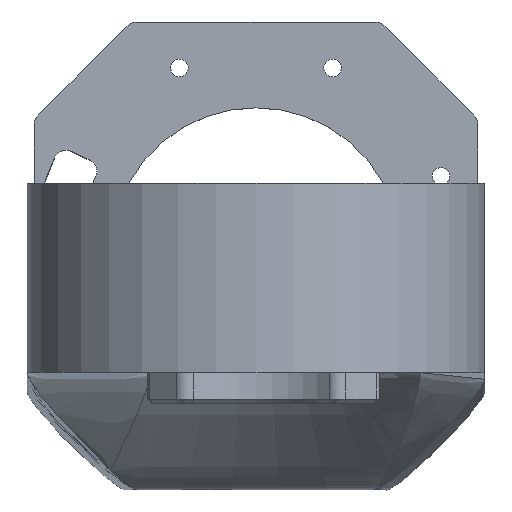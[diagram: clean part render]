
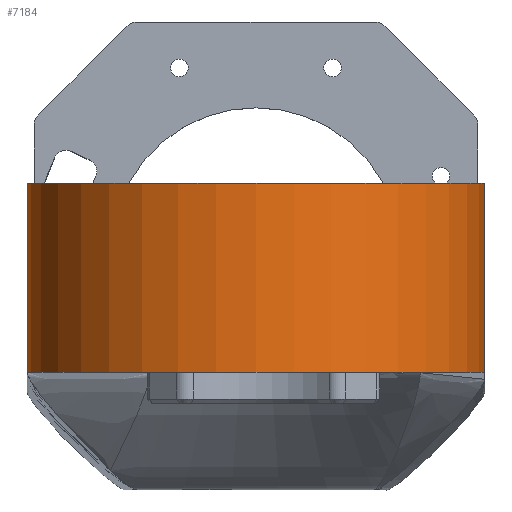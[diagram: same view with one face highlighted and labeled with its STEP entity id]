
A CAD part, top view. The second image highlights one B-rep face of the part: STEP entity #7184.
In plain terms, the highlighted cylindrical face has radius 56 mm (diameter 112 mm), a partial arc.
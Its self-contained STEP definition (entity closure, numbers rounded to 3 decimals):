
#385=CARTESIAN_POINT('',(-126.,-33.5,-94.));
#386=DIRECTION('',(0.,1.,0.));
#387=DIRECTION('',(0.,0.,1.));
#388=AXIS2_PLACEMENT_3D('',#385,#386,#387);
#403=CARTESIAN_POINT('',(-126.,-33.5,-94.));
#404=DIRECTION('',(0.,1.,0.));
#405=DIRECTION('',(-1.,0.,0.));
#406=AXIS2_PLACEMENT_3D('',#403,#404,#405);
#546=DIRECTION('',(0.,1.,0.));
#547=VECTOR('',#546,46.25);
#548=CARTESIAN_POINT('',(-182.,-33.5,-94.));
#549=LINE('',#548,#547);
#550=DIRECTION('',(0.,-1.,0.));
#551=VECTOR('',#550,46.25);
#552=CARTESIAN_POINT('',(-85.768,12.75,-132.954));
#553=LINE('',#552,#551);
#909=CARTESIAN_POINT('',(-126.,12.75,-94.));
#910=DIRECTION('',(0.,-1.,0.));
#911=DIRECTION('',(0.718,0.,-0.696));
#912=AXIS2_PLACEMENT_3D('',#909,#910,#911);
#914=CARTESIAN_POINT('',(-126.,12.75,-94.));
#915=DIRECTION('',(0.,-1.,0.));
#916=DIRECTION('',(0.,0.,1.));
#917=AXIS2_PLACEMENT_3D('',#914,#915,#916);
#5710=CARTESIAN_POINT('',(-85.768,12.75,-132.954));
#5711=VERTEX_POINT('',#5710);
#5712=CARTESIAN_POINT('',(-126.,12.75,-38.));
#5713=CARTESIAN_POINT('',(-182.,12.75,-94.));
#5714=VERTEX_POINT('',#5712);
#5715=VERTEX_POINT('',#5713);
#5849=CARTESIAN_POINT('',(-182.,-33.5,-94.));
#5851=VERTEX_POINT('',#5849);
#5852=CARTESIAN_POINT('',(-126.,-33.5,-38.));
#5853=CARTESIAN_POINT('',(-85.764,-33.5,-132.949));
#5854=VERTEX_POINT('',#5852);
#5855=VERTEX_POINT('',#5853);
#7167=CARTESIAN_POINT('',(-126.,1252.213,-94.));
#7168=DIRECTION('',(0.,-1.,0.));
#7169=DIRECTION('',(0.,0.,-1.));
#7170=AXIS2_PLACEMENT_3D('',#7167,#7168,#7169);
#7171=CYLINDRICAL_SURFACE('',#7170,56.);
#7173=ORIENTED_EDGE('',*,*,#7172,.T.);
#7175=ORIENTED_EDGE('',*,*,#7174,.F.);
#7177=ORIENTED_EDGE('',*,*,#7176,.F.);
#7179=ORIENTED_EDGE('',*,*,#7178,.T.);
#7180=ORIENTED_EDGE('',*,*,#7082,.F.);
#7181=ORIENTED_EDGE('',*,*,#7090,.F.);
#7182=EDGE_LOOP('',(#7173,#7175,#7177,#7179,#7180,#7181));
#7183=FACE_OUTER_BOUND('',#7182,.F.);
#7184=ADVANCED_FACE('',(#7183),#7171,.T.);
#389=CIRCLE('',#388,56.);
#407=CIRCLE('',#406,56.);
#913=CIRCLE('',#912,56.);
#918=CIRCLE('',#917,56.);
#7082=EDGE_CURVE('',#5854,#5855,#389,.T.);
#7090=EDGE_CURVE('',#5851,#5854,#407,.T.);
#7172=EDGE_CURVE('',#5851,#5715,#549,.T.);
#7174=EDGE_CURVE('',#5714,#5715,#918,.T.);
#7176=EDGE_CURVE('',#5711,#5714,#913,.T.);
#7178=EDGE_CURVE('',#5711,#5855,#553,.T.);
